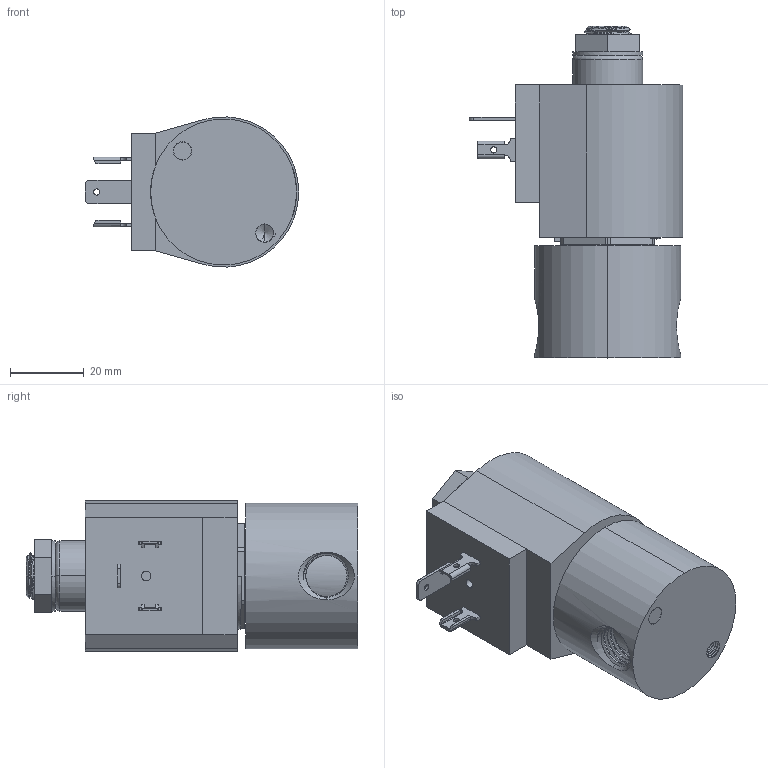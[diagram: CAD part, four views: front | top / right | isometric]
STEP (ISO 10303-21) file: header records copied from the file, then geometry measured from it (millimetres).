
FILE_DESCRIPTION (( 'STEP AP203' ), '1' );
FILE_NAME ('S302Y_B.STEP', '2021-08-03T14:00:30', ( '' ), ( '' ), 'SwSTEP 2.0', 'SolidWorks 2020', '' );
FILE_SCHEMA (( 'CONFIG_CONTROL_DESIGN' ));
Length unit declared in the file: inch
Products named in the file (1): S302Y_B
Bounding box: 57.73 x 89.71 x 40.57 mm (x, y, z)
Volume: 101800.8 mm3; surface area: 17046.2 mm2
Topology: 1 solids, 1 shells, 204 faces, 540 edges, 350 vertices
Faces by surface type: cylinder 85, plane 81, bspline 24, cone 12, torus 2
Entity records: 15717 total; most frequent: CARTESIAN_POINT 11049, ORIENTED_EDGE 1076, DIRECTION 825, EDGE_CURVE 538, VERTEX_POINT 350, AXIS2_PLACEMENT_3D 286, LINE 253, VECTOR 253
